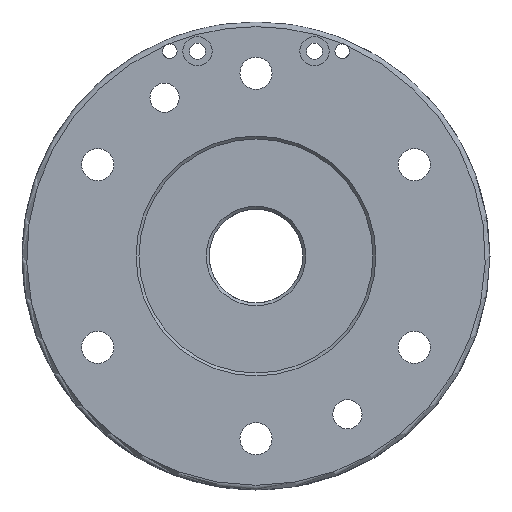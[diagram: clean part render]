
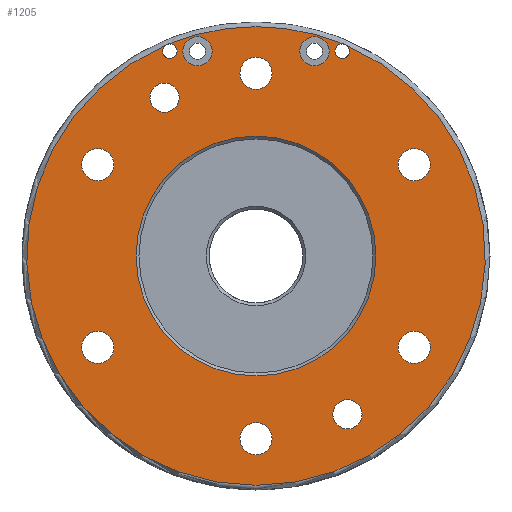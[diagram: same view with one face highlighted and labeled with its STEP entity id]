
A CAD part, left-side view. The second image highlights one B-rep face of the part: STEP entity #1205.
In plain terms, the highlighted planar face has unit normal (-1, 0, 0).
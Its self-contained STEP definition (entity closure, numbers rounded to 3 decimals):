
#31=FACE_BOUND('',#150,.T.);
#32=FACE_BOUND('',#151,.T.);
#33=FACE_BOUND('',#152,.T.);
#34=FACE_BOUND('',#153,.T.);
#35=FACE_BOUND('',#154,.T.);
#36=FACE_BOUND('',#155,.T.);
#37=FACE_BOUND('',#156,.T.);
#38=FACE_BOUND('',#157,.T.);
#39=FACE_BOUND('',#158,.T.);
#40=FACE_BOUND('',#159,.T.);
#41=FACE_BOUND('',#160,.T.);
#63=PLANE('',#1293);
#89=FACE_OUTER_BOUND('',#149,.T.);
#149=EDGE_LOOP('',(#777,#778,#779,#780,#781,#782,#783));
#150=EDGE_LOOP('',(#784));
#151=EDGE_LOOP('',(#785));
#152=EDGE_LOOP('',(#786));
#153=EDGE_LOOP('',(#787));
#154=EDGE_LOOP('',(#788));
#155=EDGE_LOOP('',(#789));
#156=EDGE_LOOP('',(#790));
#157=EDGE_LOOP('',(#791));
#158=EDGE_LOOP('',(#792));
#159=EDGE_LOOP('',(#793,#794));
#160=EDGE_LOOP('',(#795,#796));
#371=CIRCLE('',#1286,2.5);
#372=CIRCLE('',#1287,2.5);
#375=CIRCLE('',#1291,2.5);
#376=CIRCLE('',#1292,2.5);
#377=CIRCLE('',#1294,78.4);
#378=CIRCLE('',#1295,78.4);
#379=CIRCLE('',#1296,78.4);
#380=CIRCLE('',#1297,5.);
#381=CIRCLE('',#1298,5.);
#382=CIRCLE('',#1299,5.5);
#383=CIRCLE('',#1300,5.5);
#384=CIRCLE('',#1301,5.5);
#385=CIRCLE('',#1302,5.5);
#386=CIRCLE('',#1303,5.5);
#387=CIRCLE('',#1304,5.5);
#388=CIRCLE('',#1305,41.);
#389=CIRCLE('',#1306,5.);
#390=CIRCLE('',#1307,5.);
#391=CIRCLE('',#1308,5.);
#392=CIRCLE('',#1309,5.);
#465=VERTEX_POINT('',#1821);
#466=VERTEX_POINT('',#1823);
#467=VERTEX_POINT('',#1825);
#470=VERTEX_POINT('',#1838);
#471=VERTEX_POINT('',#1840);
#472=VERTEX_POINT('',#1842);
#473=VERTEX_POINT('',#1852);
#474=VERTEX_POINT('',#1855);
#475=VERTEX_POINT('',#1857);
#476=VERTEX_POINT('',#1859);
#477=VERTEX_POINT('',#1861);
#478=VERTEX_POINT('',#1863);
#479=VERTEX_POINT('',#1865);
#480=VERTEX_POINT('',#1867);
#481=VERTEX_POINT('',#1869);
#482=VERTEX_POINT('',#1871);
#483=VERTEX_POINT('',#1873);
#484=VERTEX_POINT('',#1874);
#485=VERTEX_POINT('',#1877);
#486=VERTEX_POINT('',#1878);
#590=EDGE_CURVE('',#466,#465,#371,.T.);
#592=EDGE_CURVE('',#465,#467,#372,.T.);
#596=EDGE_CURVE('',#471,#470,#375,.T.);
#598=EDGE_CURVE('',#470,#472,#376,.T.);
#599=EDGE_CURVE('',#471,#467,#377,.T.);
#600=EDGE_CURVE('',#473,#472,#378,.T.);
#601=EDGE_CURVE('',#466,#473,#379,.T.);
#602=EDGE_CURVE('',#474,#474,#380,.T.);
#603=EDGE_CURVE('',#475,#475,#381,.T.);
#604=EDGE_CURVE('',#476,#476,#382,.T.);
#605=EDGE_CURVE('',#477,#477,#383,.T.);
#606=EDGE_CURVE('',#478,#478,#384,.T.);
#607=EDGE_CURVE('',#479,#479,#385,.T.);
#608=EDGE_CURVE('',#480,#480,#386,.T.);
#609=EDGE_CURVE('',#481,#481,#387,.T.);
#610=EDGE_CURVE('',#482,#482,#388,.T.);
#611=EDGE_CURVE('',#483,#484,#389,.T.);
#612=EDGE_CURVE('',#484,#483,#390,.T.);
#613=EDGE_CURVE('',#485,#486,#391,.T.);
#614=EDGE_CURVE('',#486,#485,#392,.T.);
#777=ORIENTED_EDGE('',*,*,#590,.T.);
#778=ORIENTED_EDGE('',*,*,#592,.T.);
#779=ORIENTED_EDGE('',*,*,#599,.F.);
#780=ORIENTED_EDGE('',*,*,#596,.T.);
#781=ORIENTED_EDGE('',*,*,#598,.T.);
#782=ORIENTED_EDGE('',*,*,#600,.F.);
#783=ORIENTED_EDGE('',*,*,#601,.F.);
#784=ORIENTED_EDGE('',*,*,#602,.T.);
#785=ORIENTED_EDGE('',*,*,#603,.T.);
#786=ORIENTED_EDGE('',*,*,#604,.T.);
#787=ORIENTED_EDGE('',*,*,#605,.T.);
#788=ORIENTED_EDGE('',*,*,#606,.T.);
#789=ORIENTED_EDGE('',*,*,#607,.T.);
#790=ORIENTED_EDGE('',*,*,#608,.T.);
#791=ORIENTED_EDGE('',*,*,#609,.T.);
#792=ORIENTED_EDGE('',*,*,#610,.F.);
#793=ORIENTED_EDGE('',*,*,#611,.T.);
#794=ORIENTED_EDGE('',*,*,#612,.T.);
#795=ORIENTED_EDGE('',*,*,#613,.T.);
#796=ORIENTED_EDGE('',*,*,#614,.T.);
#1205=ADVANCED_FACE('',(#89,#31,#32,#33,#34,#35,#36,#37,#38,#39,#40,#41),
#63,.T.);
#1286=AXIS2_PLACEMENT_3D('',#1824,#1450,#1451);
#1287=AXIS2_PLACEMENT_3D('',#1832,#1452,#1453);
#1291=AXIS2_PLACEMENT_3D('',#1841,#1461,#1462);
#1292=AXIS2_PLACEMENT_3D('',#1849,#1463,#1464);
#1293=AXIS2_PLACEMENT_3D('',#1850,#1465,#1466);
#1294=AXIS2_PLACEMENT_3D('',#1851,#1467,#1468);
#1295=AXIS2_PLACEMENT_3D('',#1853,#1469,#1470);
#1296=AXIS2_PLACEMENT_3D('',#1854,#1471,#1472);
#1297=AXIS2_PLACEMENT_3D('',#1856,#1473,#1474);
#1298=AXIS2_PLACEMENT_3D('',#1858,#1475,#1476);
#1299=AXIS2_PLACEMENT_3D('',#1860,#1477,#1478);
#1300=AXIS2_PLACEMENT_3D('',#1862,#1479,#1480);
#1301=AXIS2_PLACEMENT_3D('',#1864,#1481,#1482);
#1302=AXIS2_PLACEMENT_3D('',#1866,#1483,#1484);
#1303=AXIS2_PLACEMENT_3D('',#1868,#1485,#1486);
#1304=AXIS2_PLACEMENT_3D('',#1870,#1487,#1488);
#1305=AXIS2_PLACEMENT_3D('',#1872,#1489,#1490);
#1306=AXIS2_PLACEMENT_3D('',#1875,#1491,#1492);
#1307=AXIS2_PLACEMENT_3D('',#1876,#1493,#1494);
#1308=AXIS2_PLACEMENT_3D('',#1879,#1495,#1496);
#1309=AXIS2_PLACEMENT_3D('',#1880,#1497,#1498);
#1450=DIRECTION('center_axis',(1.,0.,0.));
#1451=DIRECTION('ref_axis',(0.,0.,-1.));
#1452=DIRECTION('center_axis',(1.,0.,0.));
#1453=DIRECTION('ref_axis',(0.,0.,-1.));
#1461=DIRECTION('center_axis',(1.,0.,0.));
#1462=DIRECTION('ref_axis',(0.,0.,-1.));
#1463=DIRECTION('center_axis',(1.,0.,0.));
#1464=DIRECTION('ref_axis',(0.,0.,-1.));
#1465=DIRECTION('center_axis',(-1.,0.,0.));
#1466=DIRECTION('ref_axis',(0.,0.,1.));
#1467=DIRECTION('center_axis',(1.,0.,0.));
#1468=DIRECTION('ref_axis',(0.,-1.,0.));
#1469=DIRECTION('center_axis',(1.,0.,0.));
#1470=DIRECTION('ref_axis',(0.,-1.,0.));
#1471=DIRECTION('center_axis',(1.,0.,0.));
#1472=DIRECTION('ref_axis',(0.,-1.,0.));
#1473=DIRECTION('center_axis',(1.,0.,0.));
#1474=DIRECTION('ref_axis',(0.,0.,1.));
#1475=DIRECTION('center_axis',(1.,0.,0.));
#1476=DIRECTION('ref_axis',(0.,0.,1.));
#1477=DIRECTION('center_axis',(1.,0.,0.));
#1478=DIRECTION('ref_axis',(0.,0.,-1.));
#1479=DIRECTION('center_axis',(1.,0.,0.));
#1480=DIRECTION('ref_axis',(0.,0.,-1.));
#1481=DIRECTION('center_axis',(1.,0.,0.));
#1482=DIRECTION('ref_axis',(0.,0.,-1.));
#1483=DIRECTION('center_axis',(1.,0.,0.));
#1484=DIRECTION('ref_axis',(0.,0.,-1.));
#1485=DIRECTION('center_axis',(1.,0.,0.));
#1486=DIRECTION('ref_axis',(0.,0.,-1.));
#1487=DIRECTION('center_axis',(1.,0.,0.));
#1488=DIRECTION('ref_axis',(0.,0.,-1.));
#1489=DIRECTION('center_axis',(-1.,0.,0.));
#1490=DIRECTION('ref_axis',(0.,-1.,0.));
#1491=DIRECTION('center_axis',(1.,0.,0.));
#1492=DIRECTION('ref_axis',(0.,0.,1.));
#1493=DIRECTION('center_axis',(1.,0.,0.));
#1494=DIRECTION('ref_axis',(0.,0.,1.));
#1495=DIRECTION('center_axis',(1.,0.,0.));
#1496=DIRECTION('ref_axis',(0.,0.,1.));
#1497=DIRECTION('center_axis',(1.,0.,0.));
#1498=DIRECTION('ref_axis',(0.,0.,1.));
#1821=CARTESIAN_POINT('',(0.,29.5,72.5));
#1823=CARTESIAN_POINT('',(0.,29.927,72.463));
#1824=CARTESIAN_POINT('Origin',(0.,29.5,70.));
#1825=CARTESIAN_POINT('',(0.,30.965,72.026));
#1832=CARTESIAN_POINT('Origin',(0.,29.5,70.));
#1838=CARTESIAN_POINT('',(0.,-29.5,72.5));
#1840=CARTESIAN_POINT('',(0.,-30.965,72.026));
#1841=CARTESIAN_POINT('Origin',(0.,-29.5,70.));
#1842=CARTESIAN_POINT('',(0.,-29.927,72.463));
#1849=CARTESIAN_POINT('Origin',(0.,-29.5,70.));
#1850=CARTESIAN_POINT('Origin',(0.,60.,0.));
#1851=CARTESIAN_POINT('Origin',(0.,0.,0.));
#1852=CARTESIAN_POINT('',(0.,0.,78.4));
#1853=CARTESIAN_POINT('Origin',(0.,0.,0.));
#1854=CARTESIAN_POINT('Origin',(0.,0.,0.));
#1855=CARTESIAN_POINT('',(0.,31.25,49.127));
#1856=CARTESIAN_POINT('Origin',(0.,31.25,54.127));
#1857=CARTESIAN_POINT('',(0.,-31.25,-59.127));
#1858=CARTESIAN_POINT('Origin',(0.,-31.25,-54.127));
#1859=CARTESIAN_POINT('',(0.,54.127,-25.75));
#1860=CARTESIAN_POINT('Origin',(0.,54.127,-31.25));
#1861=CARTESIAN_POINT('',(0.,-54.127,-25.75));
#1862=CARTESIAN_POINT('Origin',(0.,-54.127,-31.25));
#1863=CARTESIAN_POINT('',(0.,0.,68.));
#1864=CARTESIAN_POINT('Origin',(0.,0.,62.5));
#1865=CARTESIAN_POINT('',(0.,-54.127,36.75));
#1866=CARTESIAN_POINT('Origin',(0.,-54.127,31.25));
#1867=CARTESIAN_POINT('',(0.,0.,-57.));
#1868=CARTESIAN_POINT('Origin',(0.,0.,-62.5));
#1869=CARTESIAN_POINT('',(0.,54.127,36.75));
#1870=CARTESIAN_POINT('Origin',(0.,54.127,31.25));
#1871=CARTESIAN_POINT('',(0.,41.,0.));
#1872=CARTESIAN_POINT('Origin',(0.,0.,0.));
#1873=CARTESIAN_POINT('',(0.,20.,75.));
#1874=CARTESIAN_POINT('',(0.,20.,65.));
#1875=CARTESIAN_POINT('Origin',(0.,20.,70.));
#1876=CARTESIAN_POINT('Origin',(0.,20.,70.));
#1877=CARTESIAN_POINT('',(0.,-20.,75.));
#1878=CARTESIAN_POINT('',(0.,-20.,65.));
#1879=CARTESIAN_POINT('Origin',(0.,-20.,70.));
#1880=CARTESIAN_POINT('Origin',(0.,-20.,70.));
